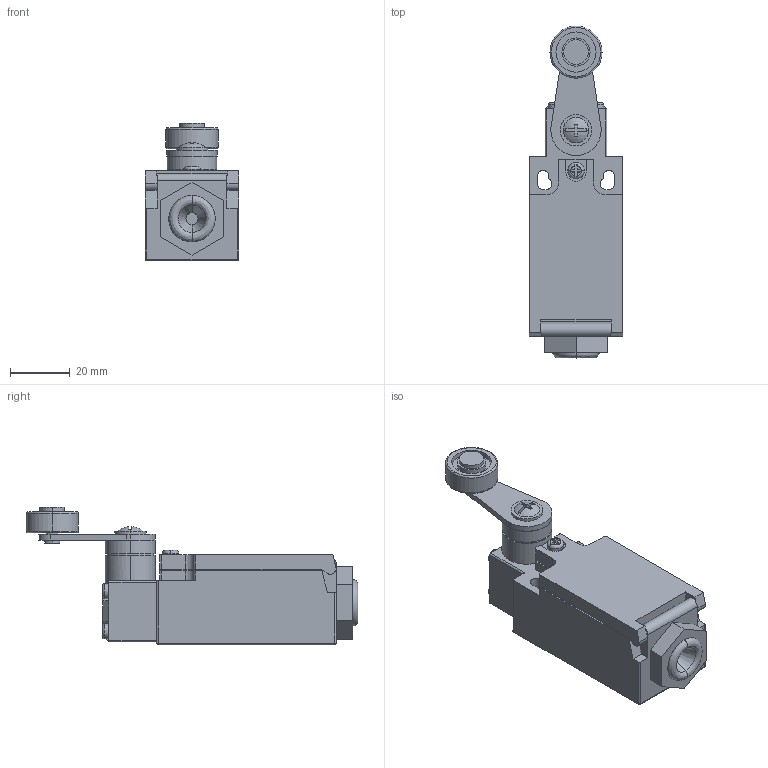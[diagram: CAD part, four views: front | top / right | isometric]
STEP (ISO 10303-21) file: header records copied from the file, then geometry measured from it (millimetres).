
FILE_DESCRIPTION (( 'STEP AP203' ), '1' );
FILE_NAME ('FM9204.STEP', '2018-06-01T16:56:47', ( '' ), ( '' ), 'SwSTEP 2.0', 'SolidWorks 2012', '' );
FILE_SCHEMA (( 'CONFIG_CONTROL_DESIGN' ));
Length unit declared in the file: millimetre
Products named in the file (1): FM9204
Bounding box: 31.3 x 110.8 x 45.85 mm (x, y, z)
Volume: 67516.6 mm3; surface area: 15051.6 mm2
Topology: 1 solids, 1 shells, 313 faces, 816 edges, 522 vertices
Faces by surface type: plane 188, cylinder 92, torus 23, sphere 6, bspline 2, cone 2
Entity records: 9965 total; most frequent: CARTESIAN_POINT 2049, DIRECTION 1659, ORIENTED_EDGE 1624, EDGE_CURVE 812, AXIS2_PLACEMENT_3D 558, LINE 543, VECTOR 543, VERTEX_POINT 522
